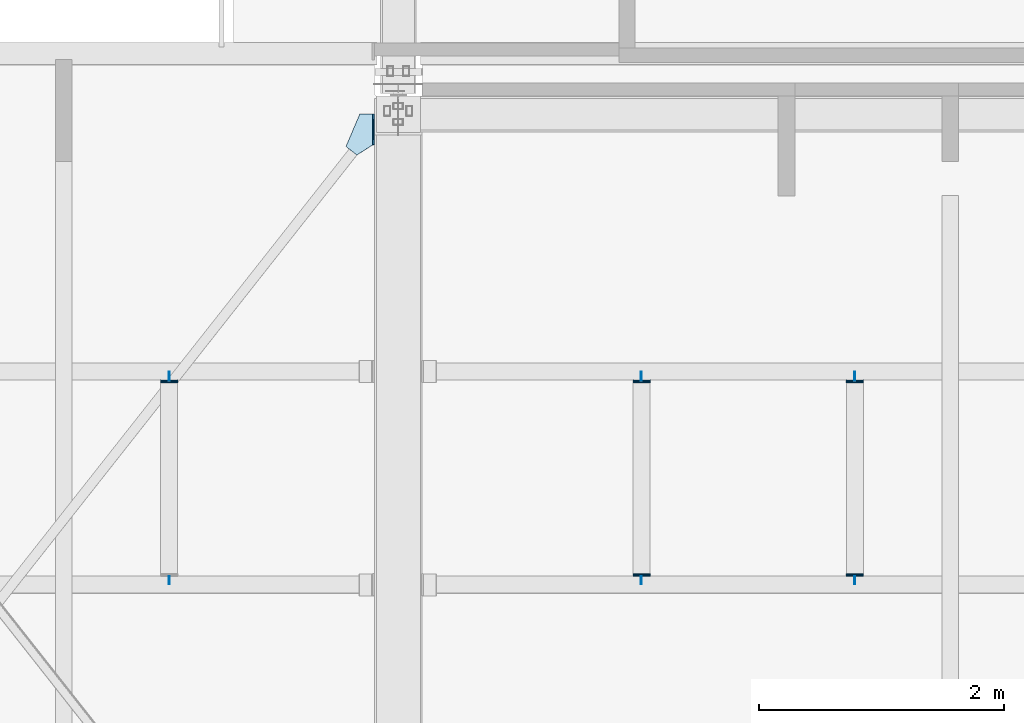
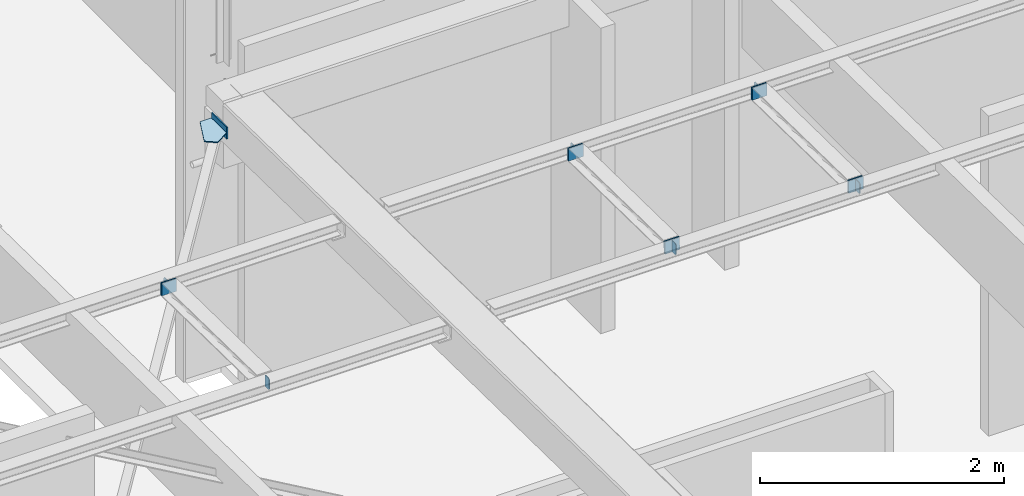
# One storey, part 118 of 186: 20 plates.
"""IFC4X3_ADD2 building model written with IfcOpenShell, lengths in millimetres."""

from ifc_helpers import new_model, si_unit, direction, frame, frame_2d, origin_with_axes, place, context, subcontext, project, spatial, polyline, rectangle, outline, extrude, material, element, save


model = new_model("IFC4X3_ADD2")

# Units and contexts
model_context = context("Model", 3, precision=1e-05, world=origin_with_axes(), true_north=direction((0.0, 1.0)))
body_context = subcontext(model_context, "Body", "Model", "MODEL_VIEW")
ifc_project = project(units=[si_unit("LENGTHUNIT", "METRE", prefix="MILLI"), si_unit("AREAUNIT", "SQUARE_METRE"), si_unit("VOLUMEUNIT", "CUBIC_METRE"), si_unit("PLANEANGLEUNIT", "RADIAN"), si_unit("TIMEUNIT", "SECOND"), si_unit("MASSUNIT", "GRAM")], contexts=[model_context])

# Site, building, storey
site_placement = place(None, origin_with_axes())
site = spatial("IfcSite", under=ifc_project, at=site_placement, Name="Site", CompositionType="ELEMENT")
building_placement = place(site_placement, origin_with_axes())
building = spatial("IfcBuilding", under=site, at=building_placement, Name="IFC Building Story")
storey_placement = place(building_placement, frame((0.0, 0.0, 4370.0), z_axis=(0.0, 0.0, 1.0), x_axis=(1.0, 0.0, 0.0)))
storey = spatial("IfcBuildingStorey", under=building, at=storey_placement, Name="ETAGE 10 (1)", Elevation=4370.0)

# Plates
ifc_material = material(Name="Acier - B 500 B")
plate_1_placement = place(storey_placement, frame((41881.18934821, -3910.442229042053, 3092.116686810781), z_axis=(0.0, 0.0, 1.0), x_axis=(1.0, 0.0, 0.0)))
element("IfcPlate", 1, at=plate_1_placement, inside=storey, material=ifc_material, Name="-", ObjectType="Aucun", context=body_context, shape_type="SweptSolid", body=[
    extrude(rectangle(XDim=140.0, YDim=10.0, at=frame_2d((0.0, 5.95523630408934e-12), x_axis=(1.0, 0.0))), frame((70.0, 4.999360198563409, 0.07998502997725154), z_axis=(0.0, 0.0159970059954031, 0.999872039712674), x_axis=(1.0, 0.0, 0.0)), (0.0, 0.0, 1.0), 123.0),
])
plate_2_placement = place(storey_placement, frame((39667.69114180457, -110.9588964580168, 2906.781802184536), z_axis=(0.0, 0.0, 1.0), x_axis=(-0.3910340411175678, -0.9203762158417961, 0.0)))
element("IfcPlate", 2, at=plate_2_placement, inside=storey, material=ifc_material, Name="-", ObjectType="Aucun", context=body_context, shape_type="SweptSolid", body=[
    extrude(outline(polyline([(-149.7228306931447, -81.09178846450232), (-191.9321209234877, 18.31835529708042), (38.15718014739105, 116.0876179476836), (166.5878614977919, 27.75065047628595), (136.9099099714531, -81.06483525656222), (-149.7228306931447, -81.09178846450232)])), frame((192.0596436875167, 81.13929280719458, 2.739830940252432), z_axis=(-0.0148761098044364, -0.006320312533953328, 0.999869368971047), x_axis=(0.9998893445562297, -9.403206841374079e-05, 0.01487581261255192)), (0.0, 0.0, 1.0), 10.0),
])
for number, where, z_axis, x_axis in (
    (3, (43621.18934821, -2340.64312558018, 3067.001388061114), (0.0, 0.0, 1.0), (1.0, 0.0, 0.0)),
    (4, (38026.18934820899, -2330.644405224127, 3066.841418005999), (0.0, 0.0, 1.0), (1.0, 0.0, 0.0)),
    (5, (41881.189348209, -2330.644405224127, 3066.841418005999), (0.0, 0.0, 1.0), (1.0, 0.0, 0.0)),
    (6, (41881.18934820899, -3920.440949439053, 3092.276656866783), (0.0, 0.0, 1.0), (1.0, 0.0, 0.0)),
):
    element("IfcPlate", number, at=place(storey_placement, frame(where, z_axis=z_axis, x_axis=x_axis)), inside=storey, material=ifc_material, Name="-", ObjectType="Aucun", context=body_context, shape_type="SweptSolid", body=[
        extrude(rectangle(XDim=140.0, YDim=10.0, at=frame_2d((0.0, 5.95523630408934e-12), x_axis=(1.0, 0.0))), frame((70.0, 4.999360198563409, 0.07998502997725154), z_axis=(0.0, 0.0159970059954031, 0.999872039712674), x_axis=(1.0, 0.0, 0.0)), (0.0, 0.0, 1.0), 123.0),
    ])
plate_3_placement = place(storey_placement, frame((43621.189348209, -3920.440947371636, 3092.276656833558), z_axis=(0.0, 0.0, 1.0), x_axis=(1.0, 0.0, 0.0)))
element("IfcPlate", 7, at=plate_3_placement, inside=storey, material=ifc_material, Name="-", ObjectType="Aucun", context=body_context, shape_type="SweptSolid", body=[
    extrude(rectangle(XDim=140.0, YDim=9.99999999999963, at=frame_2d((0.0, 5.95523630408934e-12), x_axis=(1.0, 0.0))), frame((70.0, 4.999360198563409, 0.07998502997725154), z_axis=(0.0, 0.0159970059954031, 0.999872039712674), x_axis=(1.0, 0.0, 0.0)), (0.0, 0.0, 1.0), 123.0),
])
plate_4_placement = place(storey_placement, frame((43621.18934821, -2330.644405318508, 3066.841418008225), z_axis=(0.0, 0.0, 1.0), x_axis=(1.0, 0.0, 0.0)))
element("IfcPlate", 8, at=plate_4_placement, inside=storey, material=ifc_material, Name="-", ObjectType="Aucun", context=body_context, shape_type="SweptSolid", body=[
    extrude(rectangle(XDim=140.0, YDim=10.0, at=frame_2d((0.0, 5.95523630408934e-12), x_axis=(1.0, 0.0))), frame((70.0, 4.999360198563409, 0.07998502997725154), z_axis=(0.0, 0.0159970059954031, 0.999872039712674), x_axis=(1.0, 0.0, 0.0)), (0.0, 0.0, 1.0), 123.0),
])
for number, where, z_axis, x_axis in (
    (9, (38026.18934820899, -2340.643125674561, 3067.001388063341), (0.0, 0.0, 1.0), (1.0, 0.0, 0.0)),
    (10, (41881.189348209, -2340.643125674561, 3067.001388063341), (0.0, 0.0, 1.0), (1.0, 0.0, 0.0)),
):
    element("IfcPlate", number, at=place(storey_placement, frame(where, z_axis=z_axis, x_axis=x_axis)), inside=storey, material=ifc_material, Name="-", ObjectType="Aucun", context=body_context, shape_type="SweptSolid", body=[
        extrude(rectangle(XDim=140.0, YDim=9.999999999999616, at=frame_2d((0.0, 5.95523630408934e-12), x_axis=(1.0, 0.0))), frame((70.0, 4.999360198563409, 0.07998502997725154), z_axis=(0.0, 0.0159970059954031, 0.999872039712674), x_axis=(1.0, 0.0, 0.0)), (0.0, 0.0, 1.0), 122.9999999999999),
    ])
plate_5_placement = place(storey_placement, frame((43621.189348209, -3910.442229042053, 3092.116686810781), z_axis=(0.0, 0.0, 1.0), x_axis=(1.0, 0.0, 0.0)))
element("IfcPlate", 11, at=plate_5_placement, inside=storey, material=ifc_material, Name="-", ObjectType="Aucun", context=body_context, shape_type="SweptSolid", body=[
    extrude(rectangle(XDim=140.0, YDim=10.0, at=frame_2d((0.0, 5.95523630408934e-12), x_axis=(1.0, 0.0))), frame((70.0, 4.999360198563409, 0.07998502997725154), z_axis=(0.0, 0.0159970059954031, 0.999872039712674), x_axis=(1.0, 0.0, 0.0)), (0.0, 0.0, 1.0), 123.0),
])
plate_6_placement = place(storey_placement, frame((39759.187698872, -148.994469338, 2849.352069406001), z_axis=(0.0, 0.0, 1.0), x_axis=(0.0, -1.0, 0.0)))
element("IfcPlate", 12, at=plate_6_placement, inside=storey, material=ifc_material, Name="-", ObjectType="Aucun", context=body_context, shape_type="SweptSolid", body=[
    extrude(rectangle(XDim=249.9999999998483, YDim=12.0, at=frame_2d((0.0, 5.95523630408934e-12), x_axis=(-1.0, 0.0))), frame((126.7857369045, 6.0, 1.874788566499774), z_axis=(-0.01499830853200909, 0.0, 0.9998875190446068), x_axis=(0.9998875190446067, 0.0, 0.01499830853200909)), (0.0, 0.0, 1.0), 119.9999999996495),
])
for number, where, z_axis, x_axis in (
    (13, (43688.189348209, -3920.355077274, 3097.803888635), (0.0, 0.0, 1.0), (0.0, -1.0, 0.0)),
    (14, (41946.189348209, -3920.355077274, 3097.803888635), (0.0, 0.0, 1.0), (0.0, -1.0, 0.0)),
    (15, (41946.189348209, -3920.355077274, 3097.803888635), (0.0, 0.0, 1.0), (0.0, -1.0, 0.0)),
):
    element("IfcPlate", number, at=place(storey_placement, frame(where, z_axis=z_axis, x_axis=x_axis)), inside=storey, material=ifc_material, Name="-", ObjectType="Aucun", context=body_context, shape_type="SweptSolid", body=[
        extrude(outline(polyline([(26.50054604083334, 44.72645192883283), (25.06081553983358, -45.26203164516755), (12.87038699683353, -57.06853205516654), (-39.5628971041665, -56.22964917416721), (-39.5628971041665, 56.91688047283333), (14.69404563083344, 56.91688047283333), (26.50054604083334, 44.72645192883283)])), frame((39.5628971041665, 0.0, 56.91688047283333), z_axis=(0.0, 1.0, 0.0), x_axis=(1.0, 0.0, 0.0)), (0.0, 0.0, 1.0), 6.0),
    ])
plate_7_placement = place(storey_placement, frame((41946.189348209, -2252.70048111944, 3070.473004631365), z_axis=(0.0, 0.0, 1.0), x_axis=(0.0, -1.0, 0.0)))
element("IfcPlate", 16, at=plate_7_placement, inside=storey, material=ifc_material, Name="-", ObjectType="Aucun", context=body_context, shape_type="SweptSolid", body=[
    extrude(outline(polyline([(41.06178575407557, 55.62696192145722), (39.25201171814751, -57.49061305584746), (-14.9910464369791, -56.62277551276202), (-26.79754684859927, -44.43234697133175), (-25.35781636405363, 45.55613660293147), (-13.16738782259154, 57.36263701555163), (41.06178575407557, 55.62696192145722)])), frame((26.79754684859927, 0.0, 57.36263701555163), z_axis=(0.0, 1.0, 0.0), x_axis=(1.0, 0.0, 0.0)), (0.0, 0.0, 1.0), 6.0),
])
plate_8_placement = place(storey_placement, frame((43688.18934821, -2252.700481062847, 3070.473004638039), z_axis=(0.0, 0.0, 1.0), x_axis=(0.0, -1.0, 0.0)))
element("IfcPlate", 17, at=plate_8_placement, inside=storey, material=ifc_material, Name="-", ObjectType="Aucun", context=body_context, shape_type="SweptSolid", body=[
    extrude(outline(polyline([(41.17322707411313, 56.49479944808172), (39.34956839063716, -57.49061307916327), (-14.05298408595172, -57.49061305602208), (-26.69999016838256, -44.4323469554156), (-26.69999013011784, 45.55613661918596), (-13.06983108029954, 57.36263702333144), (41.17322707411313, 56.49479944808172)])), frame((26.69999016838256, 0.0, 57.36263702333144), z_axis=(0.0, 1.0, 0.0), x_axis=(1.0, 0.0, 0.0)), (0.0, 0.0, 1.0), 6.0),
])
for number, where, z_axis, x_axis in (
    (18, (38093.18934821, -3920.355077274, 3097.803888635), (0.0, 0.0, 1.0), (0.0, -1.0, 0.0)),
    (19, (38093.18934821, -3920.355077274, 3097.803888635), (0.0, 0.0, 1.0), (0.0, -1.0, 0.0)),
):
    element("IfcPlate", number, at=place(storey_placement, frame(where, z_axis=z_axis, x_axis=x_axis)), inside=storey, material=ifc_material, Name="-", ObjectType="Aucun", context=body_context, shape_type="SweptSolid", body=[
        extrude(outline(polyline([(26.50054604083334, 44.72645192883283), (25.06081553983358, -45.26203164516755), (12.87038699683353, -57.06853205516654), (-39.5628971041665, -56.22964917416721), (-39.5628971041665, 56.91688047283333), (14.69404563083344, 56.91688047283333), (26.50054604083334, 44.72645192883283)])), frame((39.5628971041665, 0.0, 56.91688047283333), z_axis=(0.0, 1.0, 0.0), x_axis=(1.0, 0.0, 0.0)), (0.0, 0.0, 1.0), 6.0),
    ])
plate_9_placement = place(storey_placement, frame((38093.18934821, -2252.70048111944, 3070.473004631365), z_axis=(0.0, 0.0, 1.0), x_axis=(0.0, -1.0, 0.0)))
element("IfcPlate", 20, at=plate_9_placement, inside=storey, material=ifc_material, Name="-", ObjectType="Aucun", context=body_context, shape_type="SweptSolid", body=[
    extrude(outline(polyline([(37.74386667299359, -57.46648416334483), (-14.68941742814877, -56.62760129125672), (-26.49591783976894, -44.43717274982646), (-25.0561873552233, 45.55131082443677), (-12.8657588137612, 57.35781123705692), (41.36341476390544, 55.62213614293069), (37.74386667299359, -57.46648416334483)])), frame((26.49591783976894, 0.0, 57.35781123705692), z_axis=(0.0, 1.0, 0.0), x_axis=(1.0, 0.0, 0.0)), (0.0, 0.0, 1.0), 6.0),
])

save(model, "model.ifc")
